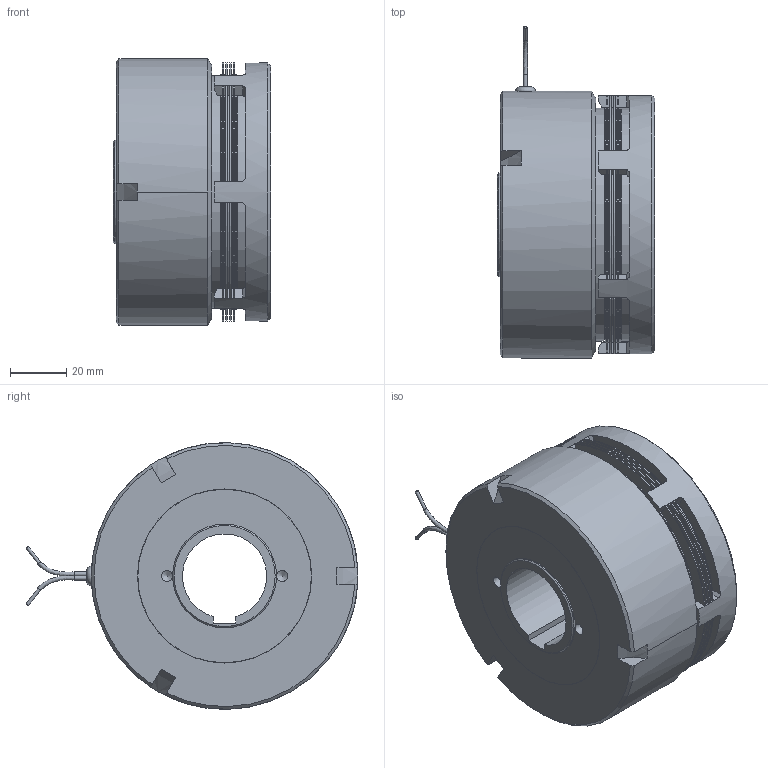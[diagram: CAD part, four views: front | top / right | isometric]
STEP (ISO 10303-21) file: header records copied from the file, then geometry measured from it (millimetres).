
FILE_DESCRIPTION(/* description */ (''),/* implementation_level */ '2;1');
FILE_NAME(/* name */ 'X:\INVENTOR\DISEGNI\05_Friz_Elettmag-Lam\05_05 ESB_S\05_05_092_01 ESB092_S\05_05_092_01 ESB092@STEP.stp',/* time_stamp */ '2018-03-30T08:53:41+02:00',/* author */ ('stefano'),/* organization */ (''),/* preprocessor_version */ 'ST-DEVELOPER v17',/* originating_system */ 'Autodesk Inventor 2018',/* authorisation */ '');
FILE_SCHEMA (('AUTOMOTIVE_DESIGN { 1 0 10303 214 3 1 1 }'));
Products named in the file (1): 05_05_092_01 ESB092_Substitute_1
Bounding box: 56 x 118.22 x 95 mm (x, y, z)
Volume: 267348.7 mm3; surface area: 152835 mm2
Topology: 6 solids, 8 shells, 1536 faces, 5539 edges, 3692 vertices
Faces by surface type: cylinder 1161, plane 272, torus 76, cone 16, sphere 9, bspline 2
Full cylindrical faces by diameter (mm): 1.154 x2, 1.5 x1, 2.5 x2, 4 x2, 37 x2, 43.64 x2, 44.5 x4, 45 x1, 46 x1, 48.5 x1, 49 x1, 53.36 x2, 55 x1, 59 x1, 60 x1, 61.8 x1, 62 x3, 65 x1, 70 x1, 71 x1, 83 x2, 83.35 x5, 84 x1, 86.8 x1, 87 x1, 92 x1
Entity records: 65731 total; most frequent: CARTESIAN_POINT 13148, DIRECTION 11829, ORIENTED_EDGE 11040, EDGE_CURVE 5520, AXIS2_PLACEMENT_3D 4985, VERTEX_POINT 3692, CIRCLE 3426, LINE 1859
